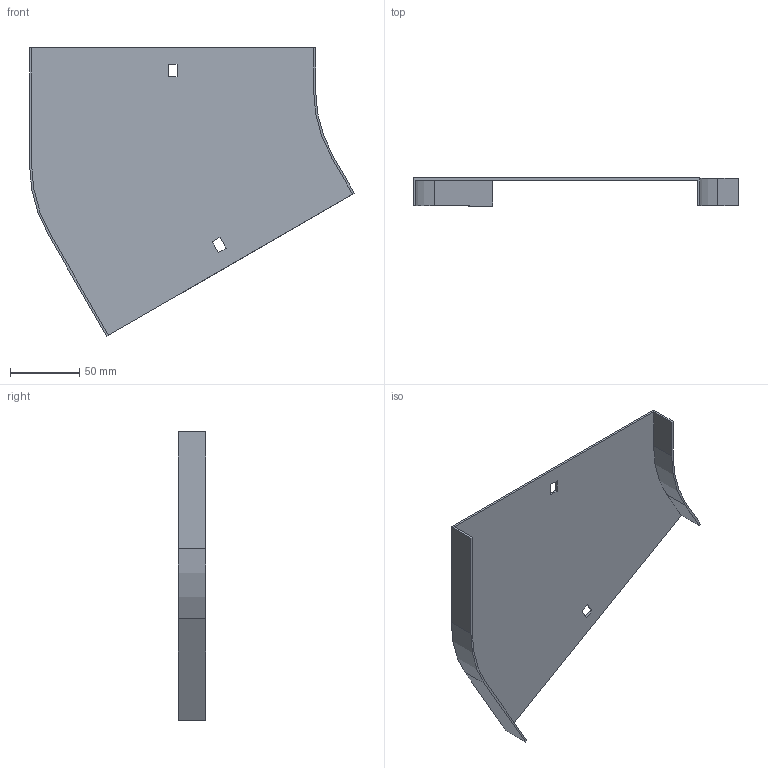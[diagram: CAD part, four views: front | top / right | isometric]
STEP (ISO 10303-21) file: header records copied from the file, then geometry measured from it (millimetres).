
FILE_DESCRIPTION (( 'STEP AP214' ), '1' );
FILE_NAME ('12G1P200.step', '2025-02-21T12:45:23', ( '' ), ( '' ), 'SwSTEP 2.0', 'SolidWorks 2023', '' );
FILE_SCHEMA (( 'AUTOMOTIVE_DESIGN' ));
Length unit declared in the file: millimetre
Products named in the file (1): 12G1P200
Bounding box: 235.2 x 20 x 208.73 mm (x, y, z)
Volume: 61330.7 mm3; surface area: 83100.4 mm2
Topology: 1 solids, 1 shells, 26 faces, 72 edges, 48 vertices
Faces by surface type: plane 22, cylinder 4
Entity records: 855 total; most frequent: CARTESIAN_POINT 147, ORIENTED_EDGE 144, DIRECTION 134, EDGE_CURVE 72, VECTOR 64, LINE 64, VERTEX_POINT 48, AXIS2_PLACEMENT_3D 35
